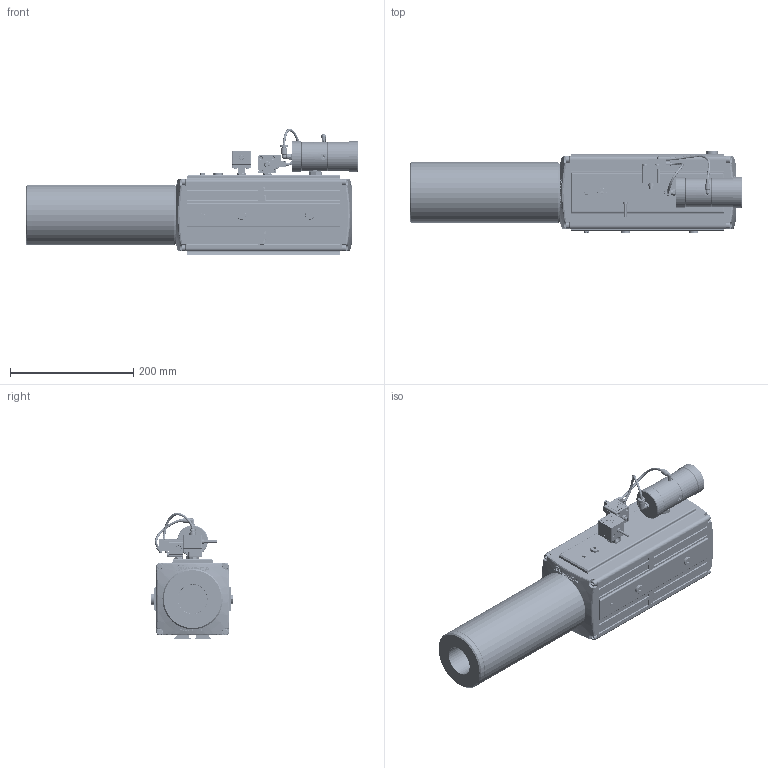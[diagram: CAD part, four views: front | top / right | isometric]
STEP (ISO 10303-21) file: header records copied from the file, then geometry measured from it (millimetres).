
FILE_DESCRIPTION( ( 'Unknown' ), '1' );
FILE_NAME( 'C:/Documents and Settings/Administrator/官帕 拳搁/3D Dimension/MPM303X5-03S-AS-S2.stp', 'Unknown', ( 'Unknown' ), ( 'Unknown' ), 'PSStep 10.0', 'Unknown', ' ' );
FILE_SCHEMA( ( 'AUTOMOTIVE_DESIGN { 1 0 10303 214 1 1 1 1 }' ) );
Length unit declared in the file: millimetre
Products named in the file (30): SILENCER_2_0_0; Assem1; VMS34(DIM)_0_0; COVER_2_0_0; ELEMENT_2_0_0; SPONGE_2_0_0; END CAP_2_0_0; VMS34_Cap-34(dim)_0_0; VMS34_Housing(dim)_0_0; VMS34_Cap-18(dim)_0_0; PL-0401_0_0_0; M4_0_0_0; M4_1_0_0_0; M6-Bolt_5_0_0; END CAP-212_5_0_0; VTP-M5_5_0_0; Double Tread PT12M-PT12M_0_0_0; Double Tread 18M-18M_0_0_0; red_5_0_0; VTP18_5_0_0; VTP14_5_0_0; VPS-01_VMS38_0_0_0; M4 ELBOW FITTING_1_0_0_0; Air Cirquit_5_0_0; END CAP-2_1_0_0; Body(re1)(dim)_7_0; VTP-M5_19_0; VTP18_19_0; VP20 T_3; 18_18
Bounding box: 539.5 x 134 x 205.14 mm (x, y, z)
Volume: 13107793.8 mm3; surface area: 2072061.3 mm2
Topology: 76 solids, 78 shells, 6069 faces, 15294 edges, 9933 vertices
Faces by surface type: plane 3777, cylinder 1338, cone 368, extrusion 196, torus 166, bspline 120, sphere 100, revolution 4
Full cylindrical faces by diameter (mm): 0.435 x2, 0.884 x4, 1.008 x9, 2.2 x4, 2.3 x2, 3.242 x8, 4 x8, 4.075 x4, 4.134 x6, 4.2 x38, 4.5 x2, 4.552 x4, 5 x4, 5.2 x6, 5.4 x4, 5.5 x8, 5.85 x4, 6 x19, 6.064 x2, 6.316 x2, 6.337 x4, 6.5 x16, 6.8 x12, 7 x2, 7.9 x2, 7.94 x2, 8 x6, 8.566 x5, 8.58 x2, 8.6 x2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
Entity records: 122029 total; most frequent: CARTESIAN_POINT 31107, DIRECTION 13456, ORIENTED_EDGE 13426, EDGE_CURVE 6713, VERTEX_POINT 4591, AXIS2_PLACEMENT_3D 4532, VECTOR 4390, LINE 4292
